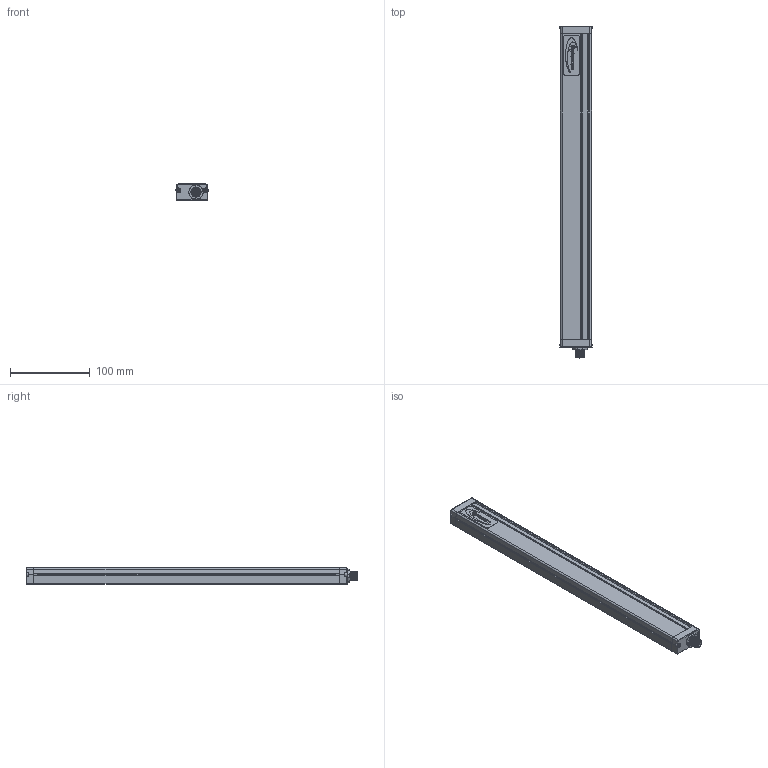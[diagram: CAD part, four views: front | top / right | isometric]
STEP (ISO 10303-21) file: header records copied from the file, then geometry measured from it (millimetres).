
FILE_DESCRIPTION(/* description */ (''),/* implementation_level */ '2;1');
FILE_NAME(/* name */ 'C:\Users\andre\SynologyDrive\Optoscan\Libreria Componenti\00 - Barriere\Polaris sorgente\Barriera Polaris RX\Polaris_380_RX.stp',/* time_stamp */ '2021-06-04T11:39:54+02:00',/* author */ ('andre'),/* organization */ (''),/* preprocessor_version */ 'ST-DEVELOPER v18',/* originating_system */ 'Autodesk Inventor 2020',/* authorisation */ '');
FILE_SCHEMA (('AUTOMOTIVE_DESIGN { 1 0 10303 214 3 1 1 }'));
Length unit declared in the file: millimetre
Products named in the file (1): Polaris_380_RX
Bounding box: 40.5 x 417.3 x 20.75 mm (x, y, z)
Volume: 86248.9 mm3; surface area: 109412.4 mm2
Topology: 1 solids, 1 shells, 700 faces, 1926 edges, 1237 vertices
Faces by surface type: plane 319, cylinder 199, bspline 94, torus 70, sphere 10, cone 8
Full cylindrical faces by diameter (mm): 1 x8, 2.459 x4, 2.5 x4, 3 x4, 3.5 x4, 5.5 x4, 8 x1, 10.5 x2, 11.75 x9, 15.7 x1, 17.5 x1
Entity records: 28472 total; most frequent: CARTESIAN_POINT 10246, ORIENTED_EDGE 3826, DIRECTION 3447, EDGE_CURVE 1913, VERTEX_POINT 1237, AXIS2_PLACEMENT_3D 1211, LINE 1025, VECTOR 1025
